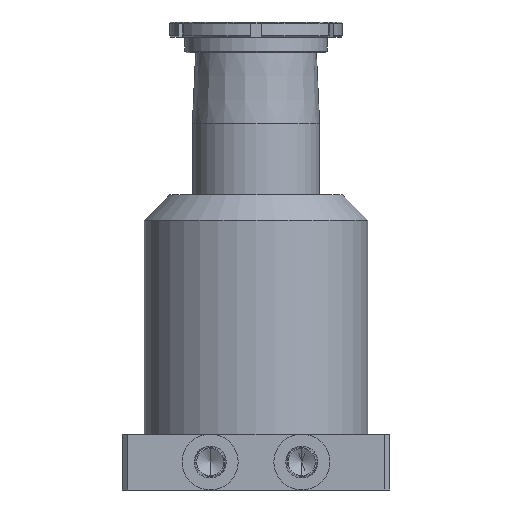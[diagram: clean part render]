
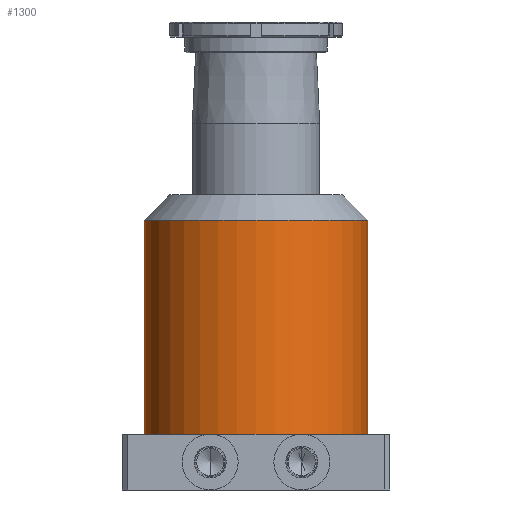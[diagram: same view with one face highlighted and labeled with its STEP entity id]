
A CAD part, front view. The second image highlights one B-rep face of the part: STEP entity #1300.
In plain terms, the highlighted cylindrical face has radius 44 mm (diameter 88 mm), a partial arc.
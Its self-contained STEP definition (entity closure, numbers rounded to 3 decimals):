
#3 = VECTOR ( 'NONE', #1598, 1000. ) ;
#180 = EDGE_CURVE ( 'NONE', #1315, #1055, #2203, .T. ) ;
#271 = CARTESIAN_POINT ( 'NONE',  ( 44., 0., 106. ) ) ;
#353 = VECTOR ( 'NONE', #3361, 1000. ) ;
#402 = AXIS2_PLACEMENT_3D ( 'NONE', #804, #2755, #1070 ) ;
#453 = AXIS2_PLACEMENT_3D ( 'NONE', #549, #2787, #1664 ) ;
#549 = CARTESIAN_POINT ( 'NONE',  ( 0., 0., 116. ) ) ;
#758 = EDGE_CURVE ( 'NONE', #1315, #1110, #1514, .T. ) ;
#804 = CARTESIAN_POINT ( 'NONE',  ( 0., 0., 22. ) ) ;
#819 = CARTESIAN_POINT ( 'NONE',  ( -44., 0., 106. ) ) ;
#870 = CARTESIAN_POINT ( 'NONE',  ( -44., 0., 22. ) ) ;
#1055 = VERTEX_POINT ( 'NONE', #819 ) ;
#1070 = DIRECTION ( 'NONE',  ( 1., 0., 0. ) ) ;
#1110 = VERTEX_POINT ( 'NONE', #3069 ) ;
#1300 = ADVANCED_FACE ( 'NONE', ( #2287 ), #2752, .T. ) ;
#1315 = VERTEX_POINT ( 'NONE', #271 ) ;
#1426 = DIRECTION ( 'NONE',  ( 0., 0., -1. ) ) ;
#1514 = LINE ( 'NONE', #3266, #3 ) ;
#1598 = DIRECTION ( 'NONE',  ( 0., 0., -1. ) ) ;
#1664 = DIRECTION ( 'NONE',  ( -1., 0., 0. ) ) ;
#1813 = EDGE_CURVE ( 'NONE', #1055, #1933, #2602, .T. ) ;
#1933 = VERTEX_POINT ( 'NONE', #870 ) ;
#1971 = CARTESIAN_POINT ( 'NONE',  ( -44., 0., 116. ) ) ;
#2156 = ORIENTED_EDGE ( 'NONE', *, *, #2676, .T. ) ;
#2203 = CIRCLE ( 'NONE', #3345, 44. ) ;
#2287 = FACE_OUTER_BOUND ( 'NONE', #3425, .T. ) ;
#2602 = LINE ( 'NONE', #1971, #353 ) ;
#2615 = ORIENTED_EDGE ( 'NONE', *, *, #1813, .T. ) ;
#2676 = EDGE_CURVE ( 'NONE', #1933, #1110, #3105, .T. ) ;
#2752 = CYLINDRICAL_SURFACE ( 'NONE', #453, 44. ) ;
#2755 = DIRECTION ( 'NONE',  ( 0., 0., 1. ) ) ;
#2787 = DIRECTION ( 'NONE',  ( 0., 0., -1. ) ) ;
#2932 = ORIENTED_EDGE ( 'NONE', *, *, #758, .F. ) ;
#3069 = CARTESIAN_POINT ( 'NONE',  ( 44., 0., 22. ) ) ;
#3102 = CARTESIAN_POINT ( 'NONE',  ( 0., 0., 106. ) ) ;
#3105 = CIRCLE ( 'NONE', #402, 44. ) ;
#3266 = CARTESIAN_POINT ( 'NONE',  ( 44., 0., 116. ) ) ;
#3345 = AXIS2_PLACEMENT_3D ( 'NONE', #3102, #1426, #3384 ) ;
#3361 = DIRECTION ( 'NONE',  ( 0., 0., -1. ) ) ;
#3384 = DIRECTION ( 'NONE',  ( 1., 0., 0. ) ) ;
#3398 = ORIENTED_EDGE ( 'NONE', *, *, #180, .T. ) ;
#3425 = EDGE_LOOP ( 'NONE', ( #2932, #3398, #2615, #2156 ) ) ;
